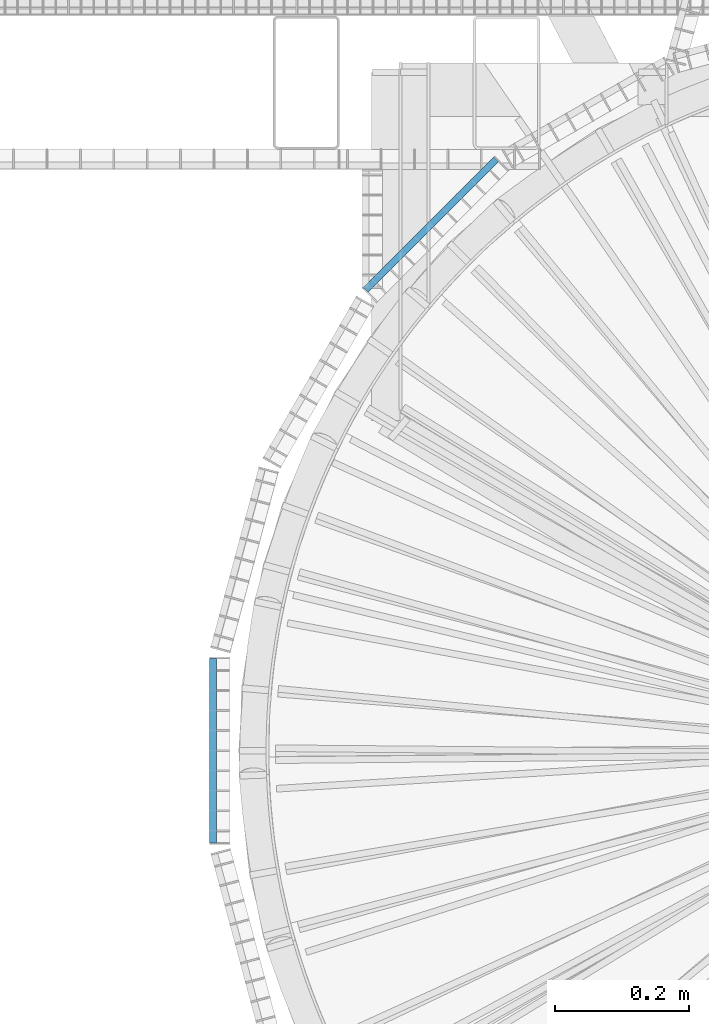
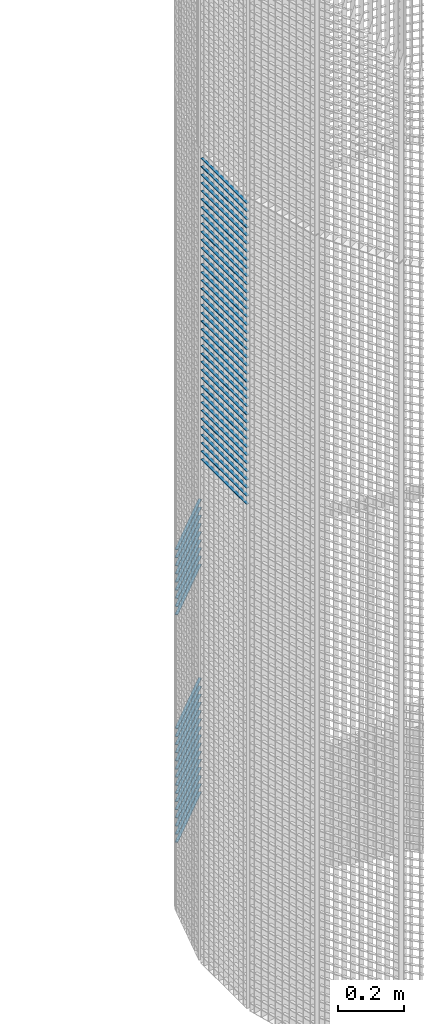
# One storey, part 219 of 1183: 62 beams, 2 elements without a shape of their own.
"""IFC2X3 building model written with IfcOpenShell, lengths in millimetres."""

import ifcopenshell
import ifcopenshell.guid

model = None  # the IFC model being written
_history = None  # IfcOwnerHistory: only IFC2X3 demands one
_inside = {}  # id of a spatial element -> (the spatial element, [elements in it])
_under = {}  # id of a project, library or spatial element -> (it, [spatial elements below it])
_declared = {}  # id of a project -> (the project, [libraries it declares])
_typed = {}  # id of a type object -> (the type object, [elements of that type])
_made_of = {}  # id of a material, layer set ... -> (it, [elements and type objects made of it])


def new_model(schema):
    """Start an empty IFC model of exactly this schema.

    Asked for "IFC4X3", IfcOpenShell would pick the latest addendum, in which some entities
    have other attributes; the version numbers below select the first issue.
    IFC2X3 requires an IfcOwnerHistory on every rooted entity: one is made here for all.
    """
    global model, _history
    if schema == "IFC4X3":
        model = ifcopenshell.file(schema_version=(4, 3, 0, 0))
    else:
        model = ifcopenshell.file(schema=schema)
    _inside.clear()
    _under.clear()
    _declared.clear()
    _typed.clear()
    _made_of.clear()
    _history = None
    if model.schema == "IFC2X3":
        org = make("IfcOrganization", Name="unknown")
        user = make(
            "IfcPersonAndOrganization",
            ThePerson=make("IfcPerson", FamilyName="unknown"),
            TheOrganization=org,
        )
        app = make(
            "IfcApplication",
            ApplicationDeveloper=org,
            Version="unknown",
            ApplicationFullName="unknown",
            ApplicationIdentifier="unknown",
        )
        _history = make(
            "IfcOwnerHistory",
            OwningUser=user,
            OwningApplication=app,
            ChangeAction="ADDED",
            CreationDate=0,
        )
    return model


def make(cls, **values):
    """One entity of the class cls with the attributes given. An attribute that is None is left unset."""
    return model.create_entity(
        cls, **{name: value for name, value in values.items() if value is not None}
    )


def rooted(cls, **values):
    """An entity with a GlobalId (a new one), such as an element, a storey or a relation."""
    return make(cls, GlobalId=ifcopenshell.guid.new(), OwnerHistory=_history, **values)


def si_unit(unit_type, name, prefix=None):
    """IfcSIUnit, for example si_unit("LENGTHUNIT", "METRE", prefix="MILLI")."""
    return make("IfcSIUnit", UnitType=unit_type, Prefix=prefix, Name=name)


def assignment(units):
    """IfcUnitAssignment: the units of a project."""
    return None if units is None else make("IfcUnitAssignment", Units=units)


def point(xyz):
    """IfcCartesianPoint."""
    return None if xyz is None else make("IfcCartesianPoint", Coordinates=xyz)


def direction(xyz):
    """IfcDirection."""
    return None if xyz is None else make("IfcDirection", DirectionRatios=xyz)


def frame(location, z_axis=None, x_axis=None):
    """IfcAxis2Placement3D, a coordinate frame: its origin and axes. An axis left out is left unset."""
    return make(
        "IfcAxis2Placement3D",
        Location=point(location),
        Axis=direction(z_axis),
        RefDirection=direction(x_axis),
    )


def frame_2d(location, x_axis=None):
    """IfcAxis2Placement2D, a coordinate frame in the plane: its origin and x axis."""
    return make(
        "IfcAxis2Placement2D", Location=point(location), RefDirection=direction(x_axis)
    )


def origin_with_axes():
    """The frame at (0, 0, 0) with the z axis (0, 0, 1) and the x axis (1, 0, 0) written out."""
    return frame((0.0, 0.0, 0.0), z_axis=(0.0, 0.0, 1.0), x_axis=(1.0, 0.0, 0.0))


def origin_2d_with_axis():
    """The frame at (0, 0) in the plane with the x axis (1, 0) written out."""
    return frame_2d((0.0, 0.0), x_axis=(1.0, 0.0))


def place(relative_to, where):
    """IfcLocalPlacement: puts the frame where relative to a parent placement (None: the world)."""
    return make(
        "IfcLocalPlacement", PlacementRelTo=relative_to, RelativePlacement=where
    )


def context(
    kind, dimensions, precision=None, world=None, true_north=None, identifier=None
):
    """IfcGeometricRepresentationContext, for example the 3D "Model" context."""
    return make(
        "IfcGeometricRepresentationContext",
        ContextIdentifier=identifier,
        ContextType=kind,
        CoordinateSpaceDimension=dimensions,
        Precision=precision,
        WorldCoordinateSystem=world,
        TrueNorth=true_north,
    )


def subcontext(parent, identifier, kind, view, scale=None):
    """IfcGeometricRepresentationSubContext, for example "Body" below "Model"."""
    return make(
        "IfcGeometricRepresentationSubContext",
        ContextIdentifier=identifier,
        ContextType=kind,
        ParentContext=parent,
        TargetScale=scale,
        TargetView=view,
    )


def project(units=None, contexts=None):
    """IfcProject with its units and contexts."""
    return rooted(
        "IfcProject",
        Name="project",
        RepresentationContexts=contexts,
        UnitsInContext=assignment(units),
    )


def spatial(cls, under=None, at=None, **own):
    """A site, building, storey or space (cls), placed at a placement, below another one or the project."""
    s = rooted(cls, ObjectPlacement=at, **own)
    if under is not None:
        _under.setdefault(under.id(), (under, []))[1].append(s)
    return s


def profile(cls, at=None, kind="AREA", **sizes):
    """A parametric profile (cls). Its sizes go by their IFC names, for example OverallWidth=200.0."""
    return make(cls, ProfileType=kind, Position=at, **sizes)


def rectangle(**sizes):
    """IfcRectangleProfileDef."""
    return profile("IfcRectangleProfileDef", **sizes)


def extrude(swept, where, along, depth):
    """IfcExtrudedAreaSolid: the profile swept, set in the frame where, extruded along a direction by depth."""
    return make(
        "IfcExtrudedAreaSolid",
        SweptArea=swept,
        Position=where,
        ExtrudedDirection=direction(along),
        Depth=depth,
    )


def shape(context_of_items, identifier, shape_type, items):
    """IfcShapeRepresentation: the items that make up one representation, for example the "Body"."""
    return make(
        "IfcShapeRepresentation",
        ContextOfItems=context_of_items,
        RepresentationIdentifier=identifier,
        RepresentationType=shape_type,
        Items=items,
    )


def material(Name=None, Category=None):
    """IfcMaterial."""
    return make("IfcMaterial", Name=Name, Category=Category)


def made_of(thing, what):
    """Note that an element or type object is made of a material, layer set ...; save() writes the relation."""
    if what is not None:
        _made_of.setdefault(what.id(), (what, []))[1].append(thing)
    return thing


def type_object(cls, material=None, **own):
    """A type object (cls), such as IfcWallType, which elements share."""
    return made_of(rooted(cls, **own), material)


def element(
    cls,
    number,
    at=None,
    inside=None,
    cuts=None,
    type_object=None,
    material=None,
    context=None,
    identifier="Body",
    shape_type=None,
    held_by="IfcProductDefinitionShape",
    body=None,
    shapes=None,
    **own,
):
    """One element of the class cls, such as IfcWall. Its Tag is "e" and its number.

    at: its placement. inside: the storey or other place that contains it. cuts: it is an
    opening in that element (IfcRelVoidsElement). A single representation is given by context,
    identifier, shape_type and body (its items); several are given by shapes. held_by: the class
    of the entity that holds the representations. save() writes the other relations.
    """
    e = rooted(cls, Tag="e%d" % number, ObjectPlacement=at, **own)
    if body is not None:
        shapes = [shape(context, identifier, shape_type, body)]
    if shapes is not None:
        e.Representation = make(held_by, Representations=shapes)
    if inside is not None:
        _inside.setdefault(inside.id(), (inside, []))[1].append(e)
    if cuts is not None:
        rooted(
            "IfcRelVoidsElement", RelatingBuildingElement=cuts, RelatedOpeningElement=e
        )
    if type_object is not None:
        _typed.setdefault(type_object.id(), (type_object, []))[1].append(e)
    return made_of(e, material)


def aggregate(whole, parts):
    """IfcRelAggregates: a whole, such as a stair, and the parts it consists of."""
    return rooted("IfcRelAggregates", RelatingObject=whole, RelatedObjects=parts)


def save(model, path):
    """Write the relations noted so far, then the file.

    IfcRelAggregates (storeys below a building ...), IfcRelContainedInSpatialStructure (elements
    in a storey), IfcRelDefinesByType, IfcRelAssociatesMaterial and IfcRelDeclares: one each for
    every whole, place, type object, material and project.
    """
    for whole, parts in _under.values():
        aggregate(whole, parts)
    for where, things in _inside.values():
        rooted(
            "IfcRelContainedInSpatialStructure",
            RelatedElements=things,
            RelatingStructure=where,
        )
    for kind, things in _typed.values():
        rooted("IfcRelDefinesByType", RelatedObjects=things, RelatingType=kind)
    for what, things in _made_of.values():
        rooted("IfcRelAssociatesMaterial", RelatedObjects=things, RelatingMaterial=what)
    for by, libraries in _declared.values():
        rooted("IfcRelDeclares", RelatingContext=by, RelatedDefinitions=libraries)
    model.write(path)


model = new_model("IFC2X3")

# Units and contexts
model_context = context("Model", 3, precision=1e-05, world=origin_with_axes())
body_context = subcontext(model_context, "Body", "Model", "MODEL_VIEW")
ifc_project = project(units=[si_unit("LENGTHUNIT", "METRE", prefix="MILLI"), si_unit("AREAUNIT", "SQUARE_METRE"), si_unit("VOLUMEUNIT", "CUBIC_METRE"), si_unit("MASSUNIT", "GRAM", prefix="KILO"), si_unit("TIMEUNIT", "SECOND"), si_unit("PLANEANGLEUNIT", "RADIAN"), si_unit("SOLIDANGLEUNIT", "STERADIAN"), si_unit("THERMODYNAMICTEMPERATUREUNIT", "DEGREE_CELSIUS"), si_unit("LUMINOUSINTENSITYUNIT", "LUMEN")], contexts=[model_context])

# Site, building, storey
site_placement = place(None, origin_with_axes())
site = spatial("IfcSite", under=ifc_project, at=site_placement, Name="Undefined", CompositionType="ELEMENT")
building_placement = place(site_placement, origin_with_axes())
building = spatial("IfcBuilding", under=site, at=building_placement, Name="Undefined", CompositionType="ELEMENT")
storey_placement = place(building_placement, origin_with_axes())
storey = spatial("IfcBuildingStorey", under=building, at=storey_placement, Name="Undefined", CompositionType="ELEMENT", Elevation=0.0)

# Assembly, beams
assembly_1_placement = place(storey_placement, origin_with_axes())
assembly_1 = element("IfcElementAssembly", 1, at=assembly_1_placement, inside=storey, Name="BORDURE", AssemblyPlace="NOTDEFINED", PredefinedType="NOTDEFINED")
ifc_material = material(Name="STEEL/S235JR")
beam_type = type_object("IfcBeamType", Name="PL2*10", PredefinedType="NOTDEFINED")
beam_1_placement = place(assembly_1_placement, frame((-689.771348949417, 884.927168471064, 869.999999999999), z_axis=(-0.707106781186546, 0.707106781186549, 0.0), x_axis=(-0.70710678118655, -0.707106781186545, 0.0)))
beam_1 = element("IfcBeam", 2, at=beam_1_placement, type_object=beam_type, material=ifc_material, Name="ENTRETOISE", context=body_context, shape_type="SweptSolid", body=[
    extrude(rectangle(XDim=2.0, YDim=10.0, at=origin_2d_with_axis()), frame((275.999999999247, 9.09494701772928e-13, 1.53210777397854e-14), z_axis=(-1.0, 0.0, 0.0), x_axis=(0.0, -1.0, 0.0)), (0.0, 0.0, 1.0), 276.0),
])
beam_2_placement = place(assembly_1_placement, frame((-689.771348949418, 884.927168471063, 449.999999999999), z_axis=(-0.707106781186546, 0.707106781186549, 0.0), x_axis=(-0.70710678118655, -0.707106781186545, 0.0)))
beam_2 = element("IfcBeam", 3, at=beam_2_placement, type_object=beam_type, material=ifc_material, Name="ENTRETOISE", context=body_context, shape_type="SweptSolid", body=[
    extrude(rectangle(XDim=2.0, YDim=10.0, at=origin_2d_with_axis()), frame((275.999999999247, 9.09494701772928e-13, 1.53210777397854e-14), z_axis=(-1.0, 0.0, 0.0), x_axis=(0.0, -1.0, 0.0)), (0.0, 0.0, 1.0), 276.0),
])
beam_3_placement = place(assembly_1_placement, frame((-689.771348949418, 884.927168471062, 419.999999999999), z_axis=(-0.707106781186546, 0.707106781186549, 0.0), x_axis=(-0.70710678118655, -0.707106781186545, 0.0)))
beam_3 = element("IfcBeam", 4, at=beam_3_placement, type_object=beam_type, material=ifc_material, Name="ENTRETOISE", context=body_context, shape_type="SweptSolid", body=[
    extrude(rectangle(XDim=2.0, YDim=10.0, at=origin_2d_with_axis()), frame((275.999999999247, 9.09494701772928e-13, 1.53210777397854e-14), z_axis=(-1.0, 0.0, 0.0), x_axis=(0.0, -1.0, 0.0)), (0.0, 0.0, 1.0), 276.0),
])
beam_4_placement = place(assembly_1_placement, frame((-689.771348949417, 884.927168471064, 899.999999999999), z_axis=(-0.707106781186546, 0.707106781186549, 0.0), x_axis=(-0.70710678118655, -0.707106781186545, 0.0)))
beam_4 = element("IfcBeam", 5, at=beam_4_placement, type_object=beam_type, material=ifc_material, Name="ENTRETOISE", context=body_context, shape_type="SweptSolid", body=[
    extrude(rectangle(XDim=2.0, YDim=10.0, at=origin_2d_with_axis()), frame((275.999999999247, 9.09494701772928e-13, 1.53210777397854e-14), z_axis=(-1.0, 0.0, 0.0), x_axis=(0.0, -1.0, 0.0)), (0.0, 0.0, 1.0), 276.0),
])
beam_5_placement = place(assembly_1_placement, frame((-689.771348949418, 884.927168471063, 389.999999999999), z_axis=(-0.707106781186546, 0.707106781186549, 0.0), x_axis=(-0.70710678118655, -0.707106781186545, 0.0)))
beam_5 = element("IfcBeam", 6, at=beam_5_placement, type_object=beam_type, material=ifc_material, Name="ENTRETOISE", context=body_context, shape_type="SweptSolid", body=[
    extrude(rectangle(XDim=2.0, YDim=10.0, at=origin_2d_with_axis()), frame((275.999999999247, 9.09494701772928e-13, 1.53210777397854e-14), z_axis=(-1.0, 0.0, 0.0), x_axis=(0.0, -1.0, 0.0)), (0.0, 0.0, 1.0), 276.0),
])
beam_6_placement = place(assembly_1_placement, frame((-689.771348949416, 884.927168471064, 929.999999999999), z_axis=(-0.707106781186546, 0.707106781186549, 0.0), x_axis=(-0.70710678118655, -0.707106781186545, 0.0)))
beam_6 = element("IfcBeam", 7, at=beam_6_placement, type_object=beam_type, material=ifc_material, Name="ENTRETOISE", context=body_context, shape_type="SweptSolid", body=[
    extrude(rectangle(XDim=2.0, YDim=10.0, at=origin_2d_with_axis()), frame((275.999999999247, 9.09494701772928e-13, 1.53210777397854e-14), z_axis=(-1.0, 0.0, 0.0), x_axis=(0.0, -1.0, 0.0)), (0.0, 0.0, 1.0), 276.0),
])
beam_7_placement = place(assembly_1_placement, frame((-689.771348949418, 884.927168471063, 359.999999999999), z_axis=(-0.707106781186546, 0.707106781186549, 0.0), x_axis=(-0.70710678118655, -0.707106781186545, 0.0)))
beam_7 = element("IfcBeam", 8, at=beam_7_placement, type_object=beam_type, material=ifc_material, Name="ENTRETOISE", context=body_context, shape_type="SweptSolid", body=[
    extrude(rectangle(XDim=2.0, YDim=10.0, at=origin_2d_with_axis()), frame((275.999999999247, 9.09494701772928e-13, 1.53210777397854e-14), z_axis=(-1.0, 0.0, 0.0), x_axis=(0.0, -1.0, 0.0)), (0.0, 0.0, 1.0), 276.0),
])
beam_8_placement = place(assembly_1_placement, frame((-689.771348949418, 884.927168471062, 329.999999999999), z_axis=(-0.707106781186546, 0.707106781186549, 0.0), x_axis=(-0.70710678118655, -0.707106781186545, 0.0)))
beam_8 = element("IfcBeam", 9, at=beam_8_placement, type_object=beam_type, material=ifc_material, Name="ENTRETOISE", context=body_context, shape_type="SweptSolid", body=[
    extrude(rectangle(XDim=2.0, YDim=10.0, at=origin_2d_with_axis()), frame((275.999999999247, 9.09494701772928e-13, 1.53210777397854e-14), z_axis=(-1.0, 0.0, 0.0), x_axis=(0.0, -1.0, 0.0)), (0.0, 0.0, 1.0), 276.0),
])
beam_9_placement = place(assembly_1_placement, frame((-689.771348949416, 884.927168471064, 959.999999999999), z_axis=(-0.707106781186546, 0.707106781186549, 0.0), x_axis=(-0.70710678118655, -0.707106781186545, 0.0)))
beam_9 = element("IfcBeam", 10, at=beam_9_placement, type_object=beam_type, material=ifc_material, Name="ENTRETOISE", context=body_context, shape_type="SweptSolid", body=[
    extrude(rectangle(XDim=2.0, YDim=10.0, at=origin_2d_with_axis()), frame((275.999999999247, 9.09494701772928e-13, 1.53210777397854e-14), z_axis=(-1.0, 0.0, 0.0), x_axis=(0.0, -1.0, 0.0)), (0.0, 0.0, 1.0), 276.0),
])
beam_10_placement = place(assembly_1_placement, frame((-689.771348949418, 884.927168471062, 299.999999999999), z_axis=(-0.707106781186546, 0.707106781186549, 0.0), x_axis=(-0.70710678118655, -0.707106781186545, 0.0)))
beam_10 = element("IfcBeam", 11, at=beam_10_placement, type_object=beam_type, material=ifc_material, Name="ENTRETOISE", context=body_context, shape_type="SweptSolid", body=[
    extrude(rectangle(XDim=2.0, YDim=10.0, at=origin_2d_with_axis()), frame((275.999999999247, 9.09494701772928e-13, 1.53210777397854e-14), z_axis=(-1.0, 0.0, 0.0), x_axis=(0.0, -1.0, 0.0)), (0.0, 0.0, 1.0), 276.0),
])
beam_11_placement = place(assembly_1_placement, frame((-689.771348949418, 884.927168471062, 269.999999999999), z_axis=(-0.707106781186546, 0.707106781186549, 0.0), x_axis=(-0.70710678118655, -0.707106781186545, 0.0)))
beam_11 = element("IfcBeam", 12, at=beam_11_placement, type_object=beam_type, material=ifc_material, Name="ENTRETOISE", context=body_context, shape_type="SweptSolid", body=[
    extrude(rectangle(XDim=2.0, YDim=10.0, at=origin_2d_with_axis()), frame((275.999999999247, 9.09494701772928e-13, 1.53210777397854e-14), z_axis=(-1.0, 0.0, 0.0), x_axis=(0.0, -1.0, 0.0)), (0.0, 0.0, 1.0), 276.0),
])
beam_12_placement = place(assembly_1_placement, frame((-689.771348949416, 884.927168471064, 989.999999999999), z_axis=(-0.707106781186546, 0.707106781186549, 0.0), x_axis=(-0.70710678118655, -0.707106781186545, 0.0)))
beam_12 = element("IfcBeam", 13, at=beam_12_placement, type_object=beam_type, material=ifc_material, Name="ENTRETOISE", context=body_context, shape_type="SweptSolid", body=[
    extrude(rectangle(XDim=2.0, YDim=10.0, at=origin_2d_with_axis()), frame((275.999999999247, 9.09494701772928e-13, 1.53210777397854e-14), z_axis=(-1.0, 0.0, 0.0), x_axis=(0.0, -1.0, 0.0)), (0.0, 0.0, 1.0), 276.0),
])
beam_13_placement = place(assembly_1_placement, frame((-689.771348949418, 884.927168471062, 239.999999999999), z_axis=(-0.707106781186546, 0.707106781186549, 0.0), x_axis=(-0.70710678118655, -0.707106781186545, 0.0)))
beam_13 = element("IfcBeam", 14, at=beam_13_placement, type_object=beam_type, material=ifc_material, Name="ENTRETOISE", context=body_context, shape_type="SweptSolid", body=[
    extrude(rectangle(XDim=2.0, YDim=10.0, at=origin_2d_with_axis()), frame((275.999999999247, 9.09494701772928e-13, 1.53210777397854e-14), z_axis=(-1.0, 0.0, 0.0), x_axis=(0.0, -1.0, 0.0)), (0.0, 0.0, 1.0), 276.0),
])
beam_14_placement = place(assembly_1_placement, frame((-689.771348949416, 884.927168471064, 1020.0), z_axis=(-0.707106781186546, 0.707106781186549, 0.0), x_axis=(-0.70710678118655, -0.707106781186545, 0.0)))
beam_14 = element("IfcBeam", 15, at=beam_14_placement, type_object=beam_type, material=ifc_material, Name="ENTRETOISE", context=body_context, shape_type="SweptSolid", body=[
    extrude(rectangle(XDim=2.0, YDim=10.0, at=origin_2d_with_axis()), frame((275.999999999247, 9.09494701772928e-13, 1.53210777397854e-14), z_axis=(-1.0, 0.0, 0.0), x_axis=(0.0, -1.0, 0.0)), (0.0, 0.0, 1.0), 276.0),
])
beam_15_placement = place(assembly_1_placement, frame((-689.771348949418, 884.927168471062, 209.999999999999), z_axis=(-0.707106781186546, 0.707106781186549, 0.0), x_axis=(-0.70710678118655, -0.707106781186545, 0.0)))
beam_15 = element("IfcBeam", 16, at=beam_15_placement, type_object=beam_type, material=ifc_material, Name="ENTRETOISE", context=body_context, shape_type="SweptSolid", body=[
    extrude(rectangle(XDim=2.0, YDim=10.0, at=origin_2d_with_axis()), frame((275.999999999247, 9.09494701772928e-13, 1.53210777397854e-14), z_axis=(-1.0, 0.0, 0.0), x_axis=(0.0, -1.0, 0.0)), (0.0, 0.0, 1.0), 276.0),
])
beam_16_placement = place(assembly_1_placement, frame((-689.771348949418, 884.927168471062, 179.999999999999), z_axis=(-0.707106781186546, 0.707106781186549, 0.0), x_axis=(-0.70710678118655, -0.707106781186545, 0.0)))
beam_16 = element("IfcBeam", 17, at=beam_16_placement, type_object=beam_type, material=ifc_material, Name="ENTRETOISE", context=body_context, shape_type="SweptSolid", body=[
    extrude(rectangle(XDim=2.0, YDim=10.0, at=origin_2d_with_axis()), frame((275.999999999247, 9.09494701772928e-13, 1.53210777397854e-14), z_axis=(-1.0, 0.0, 0.0), x_axis=(0.0, -1.0, 0.0)), (0.0, 0.0, 1.0), 276.0),
])
beam_17_placement = place(assembly_1_placement, frame((-689.771348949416, 884.927168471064, 1050.0), z_axis=(-0.707106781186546, 0.707106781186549, 0.0), x_axis=(-0.70710678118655, -0.707106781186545, 0.0)))
beam_17 = element("IfcBeam", 18, at=beam_17_placement, type_object=beam_type, material=ifc_material, Name="ENTRETOISE", context=body_context, shape_type="SweptSolid", body=[
    extrude(rectangle(XDim=2.0, YDim=10.0, at=origin_2d_with_axis()), frame((275.999999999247, 9.09494701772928e-13, 1.53210777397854e-14), z_axis=(-1.0, 0.0, 0.0), x_axis=(0.0, -1.0, 0.0)), (0.0, 0.0, 1.0), 276.0),
])
beam_18_placement = place(assembly_1_placement, frame((-689.771348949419, 884.927168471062, 149.999999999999), z_axis=(-0.707106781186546, 0.707106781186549, 0.0), x_axis=(-0.70710678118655, -0.707106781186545, 0.0)))
beam_18 = element("IfcBeam", 19, at=beam_18_placement, type_object=beam_type, material=ifc_material, Name="ENTRETOISE", context=body_context, shape_type="SweptSolid", body=[
    extrude(rectangle(XDim=2.0, YDim=10.0, at=origin_2d_with_axis()), frame((275.999999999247, 9.09494701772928e-13, 1.53210777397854e-14), z_axis=(-1.0, 0.0, 0.0), x_axis=(0.0, -1.0, 0.0)), (0.0, 0.0, 1.0), 276.0),
])
beam_19_placement = place(assembly_1_placement, frame((-689.771348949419, 884.927168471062, 119.999999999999), z_axis=(-0.707106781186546, 0.707106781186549, 0.0), x_axis=(-0.70710678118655, -0.707106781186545, 0.0)))
beam_19 = element("IfcBeam", 20, at=beam_19_placement, type_object=beam_type, material=ifc_material, Name="ENTRETOISE", context=body_context, shape_type="SweptSolid", body=[
    extrude(rectangle(XDim=2.0, YDim=10.0, at=origin_2d_with_axis()), frame((275.999999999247, 9.09494701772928e-13, 1.53210777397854e-14), z_axis=(-1.0, 0.0, 0.0), x_axis=(0.0, -1.0, 0.0)), (0.0, 0.0, 1.0), 276.0),
])
beam_20_placement = place(assembly_1_placement, frame((-689.771348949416, 884.927168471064, 1080.0), z_axis=(-0.707106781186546, 0.707106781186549, 0.0), x_axis=(-0.70710678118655, -0.707106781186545, 0.0)))
beam_20 = element("IfcBeam", 21, at=beam_20_placement, type_object=beam_type, material=ifc_material, Name="ENTRETOISE", context=body_context, shape_type="SweptSolid", body=[
    extrude(rectangle(XDim=2.0, YDim=10.0, at=origin_2d_with_axis()), frame((275.999999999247, 9.09494701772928e-13, 1.53210777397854e-14), z_axis=(-1.0, 0.0, 0.0), x_axis=(0.0, -1.0, 0.0)), (0.0, 0.0, 1.0), 276.0),
])
beam_21_placement = place(assembly_1_placement, frame((-689.771348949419, 884.927168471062, 89.9999999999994), z_axis=(-0.707106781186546, 0.707106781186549, 0.0), x_axis=(-0.70710678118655, -0.707106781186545, 0.0)))
beam_21 = element("IfcBeam", 22, at=beam_21_placement, type_object=beam_type, material=ifc_material, Name="ENTRETOISE", context=body_context, shape_type="SweptSolid", body=[
    extrude(rectangle(XDim=2.0, YDim=10.0, at=origin_2d_with_axis()), frame((275.999999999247, 9.09494701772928e-13, 1.53210777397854e-14), z_axis=(-1.0, 0.0, 0.0), x_axis=(0.0, -1.0, 0.0)), (0.0, 0.0, 1.0), 276.0),
])
beam_22_placement = place(assembly_1_placement, frame((-689.771348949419, 884.927168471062, 59.9999999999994), z_axis=(-0.707106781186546, 0.707106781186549, 0.0), x_axis=(-0.70710678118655, -0.707106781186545, 0.0)))
beam_22 = element("IfcBeam", 23, at=beam_22_placement, type_object=beam_type, material=ifc_material, Name="ENTRETOISE", context=body_context, shape_type="SweptSolid", body=[
    extrude(rectangle(XDim=2.0, YDim=10.0, at=origin_2d_with_axis()), frame((275.999999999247, 9.09494701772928e-13, 1.53210777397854e-14), z_axis=(-1.0, 0.0, 0.0), x_axis=(0.0, -1.0, 0.0)), (0.0, 0.0, 1.0), 276.0),
])
beam_23_placement = place(assembly_1_placement, frame((-689.771348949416, 884.927168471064, 1110.0), z_axis=(-0.707106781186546, 0.707106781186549, 0.0), x_axis=(-0.70710678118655, -0.707106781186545, 0.0)))
beam_23 = element("IfcBeam", 24, at=beam_23_placement, type_object=beam_type, material=ifc_material, Name="ENTRETOISE", context=body_context, shape_type="SweptSolid", body=[
    extrude(rectangle(XDim=2.0, YDim=10.0, at=origin_2d_with_axis()), frame((275.999999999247, 9.09494701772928e-13, 1.53210777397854e-14), z_axis=(-1.0, 0.0, 0.0), x_axis=(0.0, -1.0, 0.0)), (0.0, 0.0, 1.0), 276.0),
])
beam_24_placement = place(assembly_1_placement, frame((-689.771348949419, 884.92716847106, 29.9999999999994), z_axis=(-0.707106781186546, 0.707106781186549, 0.0), x_axis=(-0.70710678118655, -0.707106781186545, 0.0)))
beam_24 = element("IfcBeam", 25, at=beam_24_placement, type_object=beam_type, material=ifc_material, Name="ENTRETOISE", context=body_context, shape_type="SweptSolid", body=[
    extrude(rectangle(XDim=2.0, YDim=10.0, at=origin_2d_with_axis()), frame((275.999999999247, 9.09494701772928e-13, 1.53210777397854e-14), z_axis=(-1.0, 0.0, 0.0), x_axis=(0.0, -1.0, 0.0)), (0.0, 0.0, 1.0), 276.0),
])
aggregate(assembly_1, [beam_1, beam_2, beam_3, beam_4, beam_5, beam_6, beam_7, beam_8, beam_9, beam_10, beam_11, beam_12, beam_13, beam_14, beam_15, beam_16, beam_17, beam_18, beam_19, beam_20, beam_21, beam_22, beam_23, beam_24])

assembly_2_placement = place(storey_placement, origin_with_axes())
assembly_2 = element("IfcElementAssembly", 26, at=assembly_2_placement, inside=storey, Name="BORDURE", AssemblyPlace="NOTDEFINED", PredefinedType="NOTDEFINED")
beam_25_placement = place(assembly_2_placement, frame((-1113.47999999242, 137.996003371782, 2970.0), z_axis=(-1.0, 0.0, 0.0), x_axis=(0.0, -1.0, 0.0)))
beam_25 = element("IfcBeam", 27, at=beam_25_placement, type_object=beam_type, material=ifc_material, Name="ENTRETOISE", context=body_context, shape_type="SweptSolid", body=[
    extrude(rectangle(XDim=2.0, YDim=10.0, at=origin_2d_with_axis()), frame((275.999999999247, 9.09494701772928e-13, 1.53210777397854e-14), z_axis=(-1.0, 0.0, 0.0), x_axis=(0.0, -1.0, 0.0)), (0.0, 0.0, 1.0), 276.0),
])
beam_26_placement = place(assembly_2_placement, frame((-1113.47999999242, 137.996003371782, 2940.0), z_axis=(-1.0, 0.0, 0.0), x_axis=(0.0, -1.0, 0.0)))
beam_26 = element("IfcBeam", 28, at=beam_26_placement, type_object=beam_type, material=ifc_material, Name="ENTRETOISE", context=body_context, shape_type="SweptSolid", body=[
    extrude(rectangle(XDim=2.0, YDim=10.0, at=origin_2d_with_axis()), frame((275.999999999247, 9.09494701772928e-13, 1.53210777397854e-14), z_axis=(-1.0, 0.0, 0.0), x_axis=(0.0, -1.0, 0.0)), (0.0, 0.0, 1.0), 276.0),
])
beam_27_placement = place(assembly_2_placement, frame((-1113.47999999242, 137.996003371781, 2910.0), z_axis=(-1.0, 0.0, 0.0), x_axis=(0.0, -1.0, 0.0)))
beam_27 = element("IfcBeam", 29, at=beam_27_placement, type_object=beam_type, material=ifc_material, Name="ENTRETOISE", context=body_context, shape_type="SweptSolid", body=[
    extrude(rectangle(XDim=2.0, YDim=10.0, at=origin_2d_with_axis()), frame((275.999999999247, 9.09494701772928e-13, 1.53210777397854e-14), z_axis=(-1.0, 0.0, 0.0), x_axis=(0.0, -1.0, 0.0)), (0.0, 0.0, 1.0), 276.0),
])
beam_28_placement = place(assembly_2_placement, frame((-1113.47999999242, 137.996003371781, 2880.0), z_axis=(-1.0, 0.0, 0.0), x_axis=(0.0, -1.0, 0.0)))
beam_28 = element("IfcBeam", 30, at=beam_28_placement, type_object=beam_type, material=ifc_material, Name="ENTRETOISE", context=body_context, shape_type="SweptSolid", body=[
    extrude(rectangle(XDim=2.0, YDim=10.0, at=origin_2d_with_axis()), frame((275.999999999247, 9.09494701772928e-13, 1.53210777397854e-14), z_axis=(-1.0, 0.0, 0.0), x_axis=(0.0, -1.0, 0.0)), (0.0, 0.0, 1.0), 276.0),
])
beam_29_placement = place(assembly_2_placement, frame((-1113.47999999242, 137.996003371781, 2850.0), z_axis=(-1.0, 0.0, 0.0), x_axis=(0.0, -1.0, 0.0)))
beam_29 = element("IfcBeam", 31, at=beam_29_placement, type_object=beam_type, material=ifc_material, Name="ENTRETOISE", context=body_context, shape_type="SweptSolid", body=[
    extrude(rectangle(XDim=2.0, YDim=10.0, at=origin_2d_with_axis()), frame((275.999999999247, 9.09494701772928e-13, 1.53210777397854e-14), z_axis=(-1.0, 0.0, 0.0), x_axis=(0.0, -1.0, 0.0)), (0.0, 0.0, 1.0), 276.0),
])
beam_30_placement = place(assembly_2_placement, frame((-1113.47999999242, 137.996003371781, 2820.0), z_axis=(-1.0, 0.0, 0.0), x_axis=(0.0, -1.0, 0.0)))
beam_30 = element("IfcBeam", 32, at=beam_30_placement, type_object=beam_type, material=ifc_material, Name="ENTRETOISE", context=body_context, shape_type="SweptSolid", body=[
    extrude(rectangle(XDim=2.0, YDim=10.0, at=origin_2d_with_axis()), frame((275.999999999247, 9.09494701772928e-13, 1.53210777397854e-14), z_axis=(-1.0, 0.0, 0.0), x_axis=(0.0, -1.0, 0.0)), (0.0, 0.0, 1.0), 276.0),
])
beam_31_placement = place(assembly_2_placement, frame((-1113.47999999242, 137.996003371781, 2790.0), z_axis=(-1.0, 0.0, 0.0), x_axis=(0.0, -1.0, 0.0)))
beam_31 = element("IfcBeam", 33, at=beam_31_placement, type_object=beam_type, material=ifc_material, Name="ENTRETOISE", context=body_context, shape_type="SweptSolid", body=[
    extrude(rectangle(XDim=2.0, YDim=10.0, at=origin_2d_with_axis()), frame((275.999999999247, 9.09494701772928e-13, 1.53210777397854e-14), z_axis=(-1.0, 0.0, 0.0), x_axis=(0.0, -1.0, 0.0)), (0.0, 0.0, 1.0), 276.0),
])
beam_32_placement = place(assembly_2_placement, frame((-1113.47999999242, 137.996003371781, 2760.0), z_axis=(-1.0, 0.0, 0.0), x_axis=(0.0, -1.0, 0.0)))
beam_32 = element("IfcBeam", 34, at=beam_32_placement, type_object=beam_type, material=ifc_material, Name="ENTRETOISE", context=body_context, shape_type="SweptSolid", body=[
    extrude(rectangle(XDim=2.0, YDim=10.0, at=origin_2d_with_axis()), frame((275.999999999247, 9.09494701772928e-13, 1.53210777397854e-14), z_axis=(-1.0, 0.0, 0.0), x_axis=(0.0, -1.0, 0.0)), (0.0, 0.0, 1.0), 276.0),
])
beam_33_placement = place(assembly_2_placement, frame((-1113.47999999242, 137.996003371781, 2730.0), z_axis=(-1.0, 0.0, 0.0), x_axis=(0.0, -1.0, 0.0)))
beam_33 = element("IfcBeam", 35, at=beam_33_placement, type_object=beam_type, material=ifc_material, Name="ENTRETOISE", context=body_context, shape_type="SweptSolid", body=[
    extrude(rectangle(XDim=2.0, YDim=10.0, at=origin_2d_with_axis()), frame((275.999999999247, 9.09494701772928e-13, 1.53210777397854e-14), z_axis=(-1.0, 0.0, 0.0), x_axis=(0.0, -1.0, 0.0)), (0.0, 0.0, 1.0), 276.0),
])
beam_34_placement = place(assembly_2_placement, frame((-1113.47999999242, 137.996003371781, 2700.0), z_axis=(-1.0, 0.0, 0.0), x_axis=(0.0, -1.0, 0.0)))
beam_34 = element("IfcBeam", 36, at=beam_34_placement, type_object=beam_type, material=ifc_material, Name="ENTRETOISE", context=body_context, shape_type="SweptSolid", body=[
    extrude(rectangle(XDim=2.0, YDim=10.0, at=origin_2d_with_axis()), frame((275.999999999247, 9.09494701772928e-13, 1.53210777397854e-14), z_axis=(-1.0, 0.0, 0.0), x_axis=(0.0, -1.0, 0.0)), (0.0, 0.0, 1.0), 276.0),
])
beam_35_placement = place(assembly_2_placement, frame((-1113.47999999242, 137.996003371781, 2670.0), z_axis=(-1.0, 0.0, 0.0), x_axis=(0.0, -1.0, 0.0)))
beam_35 = element("IfcBeam", 37, at=beam_35_placement, type_object=beam_type, material=ifc_material, Name="ENTRETOISE", context=body_context, shape_type="SweptSolid", body=[
    extrude(rectangle(XDim=2.0, YDim=10.0, at=origin_2d_with_axis()), frame((275.999999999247, 9.09494701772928e-13, 1.53210777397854e-14), z_axis=(-1.0, 0.0, 0.0), x_axis=(0.0, -1.0, 0.0)), (0.0, 0.0, 1.0), 276.0),
])
beam_36_placement = place(assembly_2_placement, frame((-1113.47999999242, 137.99600337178, 2640.0), z_axis=(-1.0, 0.0, 0.0), x_axis=(0.0, -1.0, 0.0)))
beam_36 = element("IfcBeam", 38, at=beam_36_placement, type_object=beam_type, material=ifc_material, Name="ENTRETOISE", context=body_context, shape_type="SweptSolid", body=[
    extrude(rectangle(XDim=2.0, YDim=10.0, at=origin_2d_with_axis()), frame((275.999999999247, 9.09494701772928e-13, 1.53210777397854e-14), z_axis=(-1.0, 0.0, 0.0), x_axis=(0.0, -1.0, 0.0)), (0.0, 0.0, 1.0), 276.0),
])
beam_37_placement = place(assembly_2_placement, frame((-1113.47999999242, 137.99600337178, 2610.0), z_axis=(-1.0, 0.0, 0.0), x_axis=(0.0, -1.0, 0.0)))
beam_37 = element("IfcBeam", 39, at=beam_37_placement, type_object=beam_type, material=ifc_material, Name="ENTRETOISE", context=body_context, shape_type="SweptSolid", body=[
    extrude(rectangle(XDim=2.0, YDim=10.0, at=origin_2d_with_axis()), frame((275.999999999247, 9.09494701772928e-13, 1.53210777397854e-14), z_axis=(-1.0, 0.0, 0.0), x_axis=(0.0, -1.0, 0.0)), (0.0, 0.0, 1.0), 276.0),
])
beam_38_placement = place(assembly_2_placement, frame((-1113.47999999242, 137.99600337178, 2580.0), z_axis=(-1.0, 0.0, 0.0), x_axis=(0.0, -1.0, 0.0)))
beam_38 = element("IfcBeam", 40, at=beam_38_placement, type_object=beam_type, material=ifc_material, Name="ENTRETOISE", context=body_context, shape_type="SweptSolid", body=[
    extrude(rectangle(XDim=2.0, YDim=10.0, at=origin_2d_with_axis()), frame((275.999999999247, 9.09494701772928e-13, 1.53210777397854e-14), z_axis=(-1.0, 0.0, 0.0), x_axis=(0.0, -1.0, 0.0)), (0.0, 0.0, 1.0), 276.0),
])
beam_39_placement = place(assembly_2_placement, frame((-1113.47999999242, 137.99600337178, 2550.0), z_axis=(-1.0, 0.0, 0.0), x_axis=(0.0, -1.0, 0.0)))
beam_39 = element("IfcBeam", 41, at=beam_39_placement, type_object=beam_type, material=ifc_material, Name="ENTRETOISE", context=body_context, shape_type="SweptSolid", body=[
    extrude(rectangle(XDim=2.0, YDim=10.0, at=origin_2d_with_axis()), frame((275.999999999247, 9.09494701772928e-13, 1.53210777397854e-14), z_axis=(-1.0, 0.0, 0.0), x_axis=(0.0, -1.0, 0.0)), (0.0, 0.0, 1.0), 276.0),
])
beam_40_placement = place(assembly_2_placement, frame((-1113.47999999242, 137.99600337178, 2520.0), z_axis=(-1.0, 0.0, 0.0), x_axis=(0.0, -1.0, 0.0)))
beam_40 = element("IfcBeam", 42, at=beam_40_placement, type_object=beam_type, material=ifc_material, Name="ENTRETOISE", context=body_context, shape_type="SweptSolid", body=[
    extrude(rectangle(XDim=2.0, YDim=10.0, at=origin_2d_with_axis()), frame((275.999999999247, 9.09494701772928e-13, 1.53210777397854e-14), z_axis=(-1.0, 0.0, 0.0), x_axis=(0.0, -1.0, 0.0)), (0.0, 0.0, 1.0), 276.0),
])
beam_41_placement = place(assembly_2_placement, frame((-1113.47999999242, 137.99600337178, 2490.0), z_axis=(-1.0, 0.0, 0.0), x_axis=(0.0, -1.0, 0.0)))
beam_41 = element("IfcBeam", 43, at=beam_41_placement, type_object=beam_type, material=ifc_material, Name="ENTRETOISE", context=body_context, shape_type="SweptSolid", body=[
    extrude(rectangle(XDim=2.0, YDim=10.0, at=origin_2d_with_axis()), frame((275.999999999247, 9.09494701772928e-13, 1.53210777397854e-14), z_axis=(-1.0, 0.0, 0.0), x_axis=(0.0, -1.0, 0.0)), (0.0, 0.0, 1.0), 276.0),
])
beam_42_placement = place(assembly_2_placement, frame((-1113.47999999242, 137.99600337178, 2460.0), z_axis=(-1.0, 0.0, 0.0), x_axis=(0.0, -1.0, 0.0)))
beam_42 = element("IfcBeam", 44, at=beam_42_placement, type_object=beam_type, material=ifc_material, Name="ENTRETOISE", context=body_context, shape_type="SweptSolid", body=[
    extrude(rectangle(XDim=2.0, YDim=10.0, at=origin_2d_with_axis()), frame((275.999999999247, 9.09494701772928e-13, 1.53210777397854e-14), z_axis=(-1.0, 0.0, 0.0), x_axis=(0.0, -1.0, 0.0)), (0.0, 0.0, 1.0), 276.0),
])
beam_43_placement = place(assembly_2_placement, frame((-1113.47999999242, 137.99600337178, 2430.0), z_axis=(-1.0, 0.0, 0.0), x_axis=(0.0, -1.0, 0.0)))
beam_43 = element("IfcBeam", 45, at=beam_43_placement, type_object=beam_type, material=ifc_material, Name="ENTRETOISE", context=body_context, shape_type="SweptSolid", body=[
    extrude(rectangle(XDim=2.0, YDim=10.0, at=origin_2d_with_axis()), frame((275.999999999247, 9.09494701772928e-13, 1.53210777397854e-14), z_axis=(-1.0, 0.0, 0.0), x_axis=(0.0, -1.0, 0.0)), (0.0, 0.0, 1.0), 276.0),
])
beam_44_placement = place(assembly_2_placement, frame((-1113.47999999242, 137.99600337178, 2400.0), z_axis=(-1.0, 0.0, 0.0), x_axis=(0.0, -1.0, 0.0)))
beam_44 = element("IfcBeam", 46, at=beam_44_placement, type_object=beam_type, material=ifc_material, Name="ENTRETOISE", context=body_context, shape_type="SweptSolid", body=[
    extrude(rectangle(XDim=2.0, YDim=10.0, at=origin_2d_with_axis()), frame((275.999999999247, 9.09494701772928e-13, 1.53210777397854e-14), z_axis=(-1.0, 0.0, 0.0), x_axis=(0.0, -1.0, 0.0)), (0.0, 0.0, 1.0), 276.0),
])
beam_45_placement = place(assembly_2_placement, frame((-1113.47999999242, 137.996003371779, 2370.0), z_axis=(-1.0, 0.0, 0.0), x_axis=(0.0, -1.0, 0.0)))
beam_45 = element("IfcBeam", 47, at=beam_45_placement, type_object=beam_type, material=ifc_material, Name="ENTRETOISE", context=body_context, shape_type="SweptSolid", body=[
    extrude(rectangle(XDim=2.0, YDim=10.0, at=origin_2d_with_axis()), frame((275.999999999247, 9.09494701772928e-13, 1.53210777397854e-14), z_axis=(-1.0, 0.0, 0.0), x_axis=(0.0, -1.0, 0.0)), (0.0, 0.0, 1.0), 276.0),
])
beam_46_placement = place(assembly_2_placement, frame((-1113.47999999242, 137.996003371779, 2340.0), z_axis=(-1.0, 0.0, 0.0), x_axis=(0.0, -1.0, 0.0)))
beam_46 = element("IfcBeam", 48, at=beam_46_placement, type_object=beam_type, material=ifc_material, Name="ENTRETOISE", context=body_context, shape_type="SweptSolid", body=[
    extrude(rectangle(XDim=2.0, YDim=10.0, at=origin_2d_with_axis()), frame((275.999999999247, 9.09494701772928e-13, 1.53210777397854e-14), z_axis=(-1.0, 0.0, 0.0), x_axis=(0.0, -1.0, 0.0)), (0.0, 0.0, 1.0), 276.0),
])
beam_47_placement = place(assembly_2_placement, frame((-1113.47999999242, 137.996003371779, 2310.0), z_axis=(-1.0, 0.0, 0.0), x_axis=(0.0, -1.0, 0.0)))
beam_47 = element("IfcBeam", 49, at=beam_47_placement, type_object=beam_type, material=ifc_material, Name="ENTRETOISE", context=body_context, shape_type="SweptSolid", body=[
    extrude(rectangle(XDim=2.0, YDim=10.0, at=origin_2d_with_axis()), frame((275.999999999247, 9.09494701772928e-13, 1.53210777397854e-14), z_axis=(-1.0, 0.0, 0.0), x_axis=(0.0, -1.0, 0.0)), (0.0, 0.0, 1.0), 276.0),
])
beam_48_placement = place(assembly_2_placement, frame((-1113.47999999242, 137.996003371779, 2280.0), z_axis=(-1.0, 0.0, 0.0), x_axis=(0.0, -1.0, 0.0)))
beam_48 = element("IfcBeam", 50, at=beam_48_placement, type_object=beam_type, material=ifc_material, Name="ENTRETOISE", context=body_context, shape_type="SweptSolid", body=[
    extrude(rectangle(XDim=2.0, YDim=10.0, at=origin_2d_with_axis()), frame((275.999999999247, 9.09494701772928e-13, 1.53210777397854e-14), z_axis=(-1.0, 0.0, 0.0), x_axis=(0.0, -1.0, 0.0)), (0.0, 0.0, 1.0), 276.0),
])
beam_49_placement = place(assembly_2_placement, frame((-1113.47999999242, 137.996003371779, 2250.0), z_axis=(-1.0, 0.0, 0.0), x_axis=(0.0, -1.0, 0.0)))
beam_49 = element("IfcBeam", 51, at=beam_49_placement, type_object=beam_type, material=ifc_material, Name="ENTRETOISE", context=body_context, shape_type="SweptSolid", body=[
    extrude(rectangle(XDim=2.0, YDim=10.0, at=origin_2d_with_axis()), frame((275.999999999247, 9.09494701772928e-13, 1.53210777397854e-14), z_axis=(-1.0, 0.0, 0.0), x_axis=(0.0, -1.0, 0.0)), (0.0, 0.0, 1.0), 276.0),
])
beam_50_placement = place(assembly_2_placement, frame((-1113.47999999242, 137.996003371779, 2220.0), z_axis=(-1.0, 0.0, 0.0), x_axis=(0.0, -1.0, 0.0)))
beam_50 = element("IfcBeam", 52, at=beam_50_placement, type_object=beam_type, material=ifc_material, Name="ENTRETOISE", context=body_context, shape_type="SweptSolid", body=[
    extrude(rectangle(XDim=2.0, YDim=10.0, at=origin_2d_with_axis()), frame((275.999999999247, 9.09494701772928e-13, 1.53210777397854e-14), z_axis=(-1.0, 0.0, 0.0), x_axis=(0.0, -1.0, 0.0)), (0.0, 0.0, 1.0), 276.0),
])
beam_51_placement = place(assembly_2_placement, frame((-1113.47999999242, 137.996003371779, 2190.0), z_axis=(-1.0, 0.0, 0.0), x_axis=(0.0, -1.0, 0.0)))
beam_51 = element("IfcBeam", 53, at=beam_51_placement, type_object=beam_type, material=ifc_material, Name="ENTRETOISE", context=body_context, shape_type="SweptSolid", body=[
    extrude(rectangle(XDim=2.0, YDim=10.0, at=origin_2d_with_axis()), frame((275.999999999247, 9.09494701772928e-13, 1.53210777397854e-14), z_axis=(-1.0, 0.0, 0.0), x_axis=(0.0, -1.0, 0.0)), (0.0, 0.0, 1.0), 276.0),
])
beam_52_placement = place(assembly_2_placement, frame((-1113.47999999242, 137.996003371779, 2160.0), z_axis=(-1.0, 0.0, 0.0), x_axis=(0.0, -1.0, 0.0)))
beam_52 = element("IfcBeam", 54, at=beam_52_placement, type_object=beam_type, material=ifc_material, Name="ENTRETOISE", context=body_context, shape_type="SweptSolid", body=[
    extrude(rectangle(XDim=2.0, YDim=10.0, at=origin_2d_with_axis()), frame((275.999999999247, 9.09494701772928e-13, 1.53210777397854e-14), z_axis=(-1.0, 0.0, 0.0), x_axis=(0.0, -1.0, 0.0)), (0.0, 0.0, 1.0), 276.0),
])
beam_53_placement = place(assembly_2_placement, frame((-1113.47999999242, 137.996003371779, 2130.0), z_axis=(-1.0, 0.0, 0.0), x_axis=(0.0, -1.0, 0.0)))
beam_53 = element("IfcBeam", 55, at=beam_53_placement, type_object=beam_type, material=ifc_material, Name="ENTRETOISE", context=body_context, shape_type="SweptSolid", body=[
    extrude(rectangle(XDim=2.0, YDim=10.0, at=origin_2d_with_axis()), frame((275.999999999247, 9.09494701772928e-13, 1.53210777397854e-14), z_axis=(-1.0, 0.0, 0.0), x_axis=(0.0, -1.0, 0.0)), (0.0, 0.0, 1.0), 276.0),
])
beam_54_placement = place(assembly_2_placement, frame((-1113.47999999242, 137.996003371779, 2100.0), z_axis=(-1.0, 0.0, 0.0), x_axis=(0.0, -1.0, 0.0)))
beam_54 = element("IfcBeam", 56, at=beam_54_placement, type_object=beam_type, material=ifc_material, Name="ENTRETOISE", context=body_context, shape_type="SweptSolid", body=[
    extrude(rectangle(XDim=2.0, YDim=10.0, at=origin_2d_with_axis()), frame((275.999999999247, 9.09494701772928e-13, 1.53210777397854e-14), z_axis=(-1.0, 0.0, 0.0), x_axis=(0.0, -1.0, 0.0)), (0.0, 0.0, 1.0), 276.0),
])
beam_55_placement = place(assembly_2_placement, frame((-1113.47999999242, 137.996003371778, 2070.0), z_axis=(-1.0, 0.0, 0.0), x_axis=(0.0, -1.0, 0.0)))
beam_55 = element("IfcBeam", 57, at=beam_55_placement, type_object=beam_type, material=ifc_material, Name="ENTRETOISE", context=body_context, shape_type="SweptSolid", body=[
    extrude(rectangle(XDim=2.0, YDim=10.0, at=origin_2d_with_axis()), frame((275.999999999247, 9.09494701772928e-13, 1.53210777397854e-14), z_axis=(-1.0, 0.0, 0.0), x_axis=(0.0, -1.0, 0.0)), (0.0, 0.0, 1.0), 276.0),
])
beam_56_placement = place(assembly_2_placement, frame((-1113.47999999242, 137.996003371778, 2040.0), z_axis=(-1.0, 0.0, 0.0), x_axis=(0.0, -1.0, 0.0)))
beam_56 = element("IfcBeam", 58, at=beam_56_placement, type_object=beam_type, material=ifc_material, Name="ENTRETOISE", context=body_context, shape_type="SweptSolid", body=[
    extrude(rectangle(XDim=2.0, YDim=10.0, at=origin_2d_with_axis()), frame((275.999999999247, 9.09494701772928e-13, 1.53210777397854e-14), z_axis=(-1.0, 0.0, 0.0), x_axis=(0.0, -1.0, 0.0)), (0.0, 0.0, 1.0), 276.0),
])
beam_57_placement = place(assembly_2_placement, frame((-1113.47999999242, 137.996003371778, 2010.0), z_axis=(-1.0, 0.0, 0.0), x_axis=(0.0, -1.0, 0.0)))
beam_57 = element("IfcBeam", 59, at=beam_57_placement, type_object=beam_type, material=ifc_material, Name="ENTRETOISE", context=body_context, shape_type="SweptSolid", body=[
    extrude(rectangle(XDim=2.0, YDim=10.0, at=origin_2d_with_axis()), frame((275.999999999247, 9.09494701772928e-13, 1.53210777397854e-14), z_axis=(-1.0, 0.0, 0.0), x_axis=(0.0, -1.0, 0.0)), (0.0, 0.0, 1.0), 276.0),
])
beam_58_placement = place(assembly_2_placement, frame((-1113.47999999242, 137.996003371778, 1980.0), z_axis=(-1.0, 0.0, 0.0), x_axis=(0.0, -1.0, 0.0)))
beam_58 = element("IfcBeam", 60, at=beam_58_placement, type_object=beam_type, material=ifc_material, Name="ENTRETOISE", context=body_context, shape_type="SweptSolid", body=[
    extrude(rectangle(XDim=2.0, YDim=10.0, at=origin_2d_with_axis()), frame((275.999999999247, 9.09494701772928e-13, 1.53210777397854e-14), z_axis=(-1.0, 0.0, 0.0), x_axis=(0.0, -1.0, 0.0)), (0.0, 0.0, 1.0), 276.0),
])
beam_59_placement = place(assembly_2_placement, frame((-1113.47999999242, 137.996003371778, 1950.0), z_axis=(-1.0, 0.0, 0.0), x_axis=(0.0, -1.0, 0.0)))
beam_59 = element("IfcBeam", 61, at=beam_59_placement, type_object=beam_type, material=ifc_material, Name="ENTRETOISE", context=body_context, shape_type="SweptSolid", body=[
    extrude(rectangle(XDim=2.0, YDim=10.0, at=origin_2d_with_axis()), frame((275.999999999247, 9.09494701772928e-13, 1.53210777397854e-14), z_axis=(-1.0, 0.0, 0.0), x_axis=(0.0, -1.0, 0.0)), (0.0, 0.0, 1.0), 276.0),
])
beam_60_placement = place(assembly_2_placement, frame((-1113.47999999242, 137.996003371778, 1920.0), z_axis=(-1.0, 0.0, 0.0), x_axis=(0.0, -1.0, 0.0)))
beam_60 = element("IfcBeam", 62, at=beam_60_placement, type_object=beam_type, material=ifc_material, Name="ENTRETOISE", context=body_context, shape_type="SweptSolid", body=[
    extrude(rectangle(XDim=2.0, YDim=10.0, at=origin_2d_with_axis()), frame((275.999999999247, 9.09494701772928e-13, 1.53210777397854e-14), z_axis=(-1.0, 0.0, 0.0), x_axis=(0.0, -1.0, 0.0)), (0.0, 0.0, 1.0), 276.0),
])
beam_61_placement = place(assembly_2_placement, frame((-1113.47999999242, 137.996003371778, 1890.0), z_axis=(-1.0, 0.0, 0.0), x_axis=(0.0, -1.0, 0.0)))
beam_61 = element("IfcBeam", 63, at=beam_61_placement, type_object=beam_type, material=ifc_material, Name="ENTRETOISE", context=body_context, shape_type="SweptSolid", body=[
    extrude(rectangle(XDim=2.0, YDim=10.0, at=origin_2d_with_axis()), frame((275.999999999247, 9.09494701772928e-13, 1.53210777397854e-14), z_axis=(-1.0, 0.0, 0.0), x_axis=(0.0, -1.0, 0.0)), (0.0, 0.0, 1.0), 276.0),
])
beam_62_placement = place(assembly_2_placement, frame((-1113.47999999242, 137.996003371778, 1860.0), z_axis=(-1.0, 0.0, 0.0), x_axis=(0.0, -1.0, 0.0)))
beam_62 = element("IfcBeam", 64, at=beam_62_placement, type_object=beam_type, material=ifc_material, Name="ENTRETOISE", context=body_context, shape_type="SweptSolid", body=[
    extrude(rectangle(XDim=2.0, YDim=10.0, at=origin_2d_with_axis()), frame((275.999999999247, 9.09494701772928e-13, 1.53210777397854e-14), z_axis=(-1.0, 0.0, 0.0), x_axis=(0.0, -1.0, 0.0)), (0.0, 0.0, 1.0), 276.0),
])
aggregate(assembly_2, [beam_25, beam_26, beam_27, beam_28, beam_29, beam_30, beam_31, beam_32, beam_33, beam_34, beam_35, beam_36, beam_37, beam_38, beam_39, beam_40, beam_41, beam_42, beam_43, beam_44, beam_45, beam_46, beam_47, beam_48, beam_49, beam_50, beam_51, beam_52, beam_53, beam_54, beam_55, beam_56, beam_57, beam_58, beam_59, beam_60, beam_61, beam_62])

save(model, "model.ifc")
